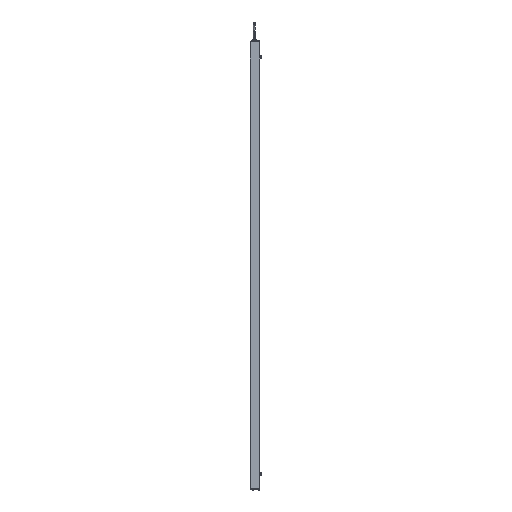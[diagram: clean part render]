
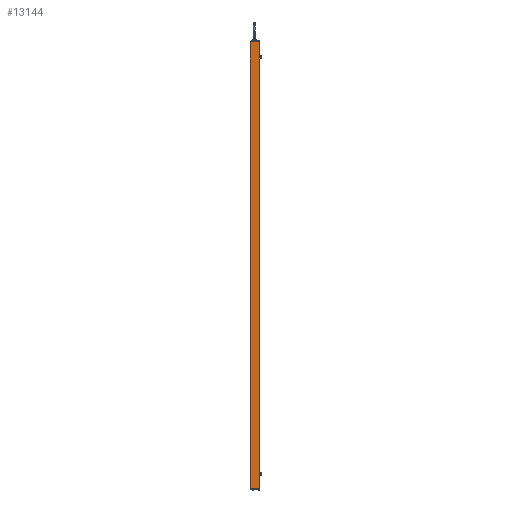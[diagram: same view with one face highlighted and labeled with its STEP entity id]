
A CAD part, left-side view. The second image highlights one B-rep face of the part: STEP entity #13144.
In plain terms, the highlighted planar face has unit normal (-1, 0, 0).
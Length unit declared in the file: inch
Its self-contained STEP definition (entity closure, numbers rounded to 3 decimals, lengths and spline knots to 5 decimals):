
#115 = LINE ( 'NONE', #11120, #12768 ) ;
#509 = VERTEX_POINT ( 'NONE', #10760 ) ;
#521 = VERTEX_POINT ( 'NONE', #12276 ) ;
#1922 = DIRECTION ( 'NONE',  ( 0., 0., -1. ) ) ;
#2429 = DIRECTION ( 'NONE',  ( 0., -1., 0. ) ) ;
#2434 = ORIENTED_EDGE ( 'NONE', *, *, #15562, .T. ) ;
#2493 = EDGE_CURVE ( 'NONE', #15699, #521, #8988, .T. ) ;
#2909 = AXIS2_PLACEMENT_3D ( 'NONE', #11860, #12147, #1922 ) ;
#3512 = FACE_OUTER_BOUND ( 'NONE', #14428, .T. ) ;
#3540 = ORIENTED_EDGE ( 'NONE', *, *, #15043, .T. ) ;
#3543 = CARTESIAN_POINT ( 'NONE',  ( -0.665, 1.105, 26.26 ) ) ;
#4255 = PLANE ( 'NONE',  #2909 ) ;
#5160 = VECTOR ( 'NONE', #12810, 39.37008 ) ;
#5240 = CARTESIAN_POINT ( 'NONE',  ( -0.665, 1.105, 26.26 ) ) ;
#6301 = LINE ( 'NONE', #11554, #5160 ) ;
#6409 = CARTESIAN_POINT ( 'NONE',  ( -0.665, 0., 26.26 ) ) ;
#8988 = LINE ( 'NONE', #6409, #14475 ) ;
#10760 = CARTESIAN_POINT ( 'NONE',  ( -0.665, 0.015, -26.26 ) ) ;
#11120 = CARTESIAN_POINT ( 'NONE',  ( -0.665, 0., -26.26 ) ) ;
#11554 = CARTESIAN_POINT ( 'NONE',  ( -0.665, 0.015, 26.26 ) ) ;
#11564 = VERTEX_POINT ( 'NONE', #16290 ) ;
#11860 = CARTESIAN_POINT ( 'NONE',  ( -0.665, 0., 26.26 ) ) ;
#12147 = DIRECTION ( 'NONE',  ( 1., 0., 0. ) ) ;
#12276 = CARTESIAN_POINT ( 'NONE',  ( -0.665, 0.015, 26.26 ) ) ;
#12523 = LINE ( 'NONE', #3543, #13901 ) ;
#12768 = VECTOR ( 'NONE', #14175, 39.37008 ) ;
#12810 = DIRECTION ( 'NONE',  ( 0., 0., 1. ) ) ;
#13144 = ADVANCED_FACE ( 'NONE', ( #3512 ), #4255, .F. ) ;
#13901 = VECTOR ( 'NONE', #15274, 39.37008 ) ;
#14175 = DIRECTION ( 'NONE',  ( 0., -1., 0. ) ) ;
#14428 = EDGE_LOOP ( 'NONE', ( #15902, #2434, #3540, #17568 ) ) ;
#14475 = VECTOR ( 'NONE', #2429, 39.37008 ) ;
#15043 = EDGE_CURVE ( 'NONE', #11564, #509, #115, .T. ) ;
#15274 = DIRECTION ( 'NONE',  ( 0., 0., -1. ) ) ;
#15562 = EDGE_CURVE ( 'NONE', #15699, #11564, #12523, .T. ) ;
#15699 = VERTEX_POINT ( 'NONE', #5240 ) ;
#15902 = ORIENTED_EDGE ( 'NONE', *, *, #2493, .F. ) ;
#16290 = CARTESIAN_POINT ( 'NONE',  ( -0.665, 1.105, -26.26 ) ) ;
#17425 = EDGE_CURVE ( 'NONE', #509, #521, #6301, .T. ) ;
#17568 = ORIENTED_EDGE ( 'NONE', *, *, #17425, .T. ) ;
